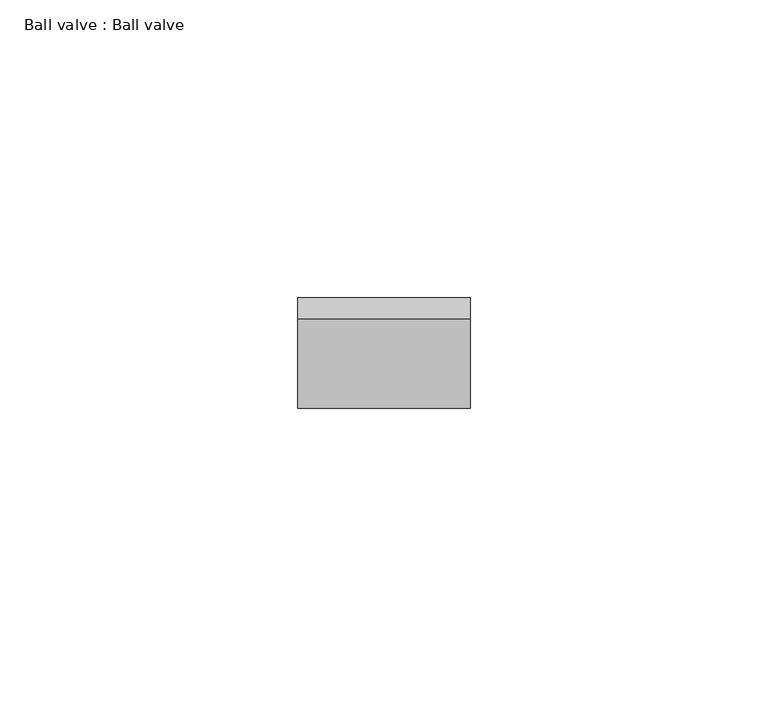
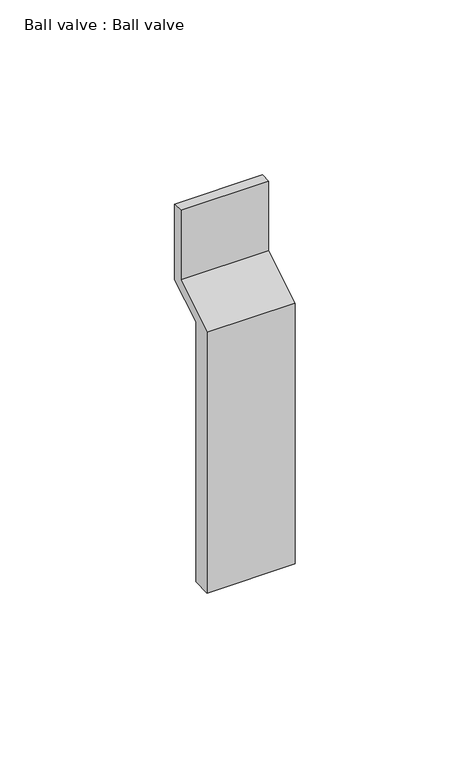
"""IFC4 building model written with IfcOpenShell, lengths in millimetres: proxy geometry, Ball valve : Ball valve."""

from ifc_helpers import new_model, si_unit, frame, origin, place, context, project, spatial, polyline, outline, extrude, source, transform, mapped, element, save


def ball_valve_ball_valve_2ec3f82c(model_context):
    return source(origin(), model_context, "Body", "SweptSolid", [
        extrude(outline(polyline([(3.25, -96.0027321), (-3.25, -96.0027321), (-3.25, -5.0690551), (11.8, 4.1150054), (11.8, 28.5), (15.3, 28.5), (15.3, 2.1506187), (3.25, -5.2027321), (3.25, -96.0027321)])), frame((-14.5, 0.0, 0.0), z_axis=(1.0, 0.0, 0.0), x_axis=(0.0, 1.0, 0.0)), (0.0, 0.0, 1.0), 29.0),
    ])


if __name__ == "__main__":
    model = new_model("IFC4")
    model_context = context("Model", 3, world=origin())
    ifc_project = project(units=[si_unit("LENGTHUNIT", "METRE", prefix="MILLI")], contexts=[model_context])
    site = spatial("IfcSite", under=ifc_project)
    building = spatial("IfcBuilding", under=site)
    placement = place(None, origin())
    ball_valve_ball_valve_shape = ball_valve_ball_valve_2ec3f82c(model_context)
    element("IfcBuildingElementProxy", 1, Name="Ball valve : Ball valve", ObjectType="Ball valve : Ball valve", at=placement, inside=building, context=model_context, shape_type="MappedRepresentation", body=[
        mapped(ball_valve_ball_valve_shape, transform((0.0, 0.0, 0.0), x_axis=(1.0, 0.0, 0.0), y_axis=(0.0, 1.0, 0.0), z_axis=(0.0, 0.0, 1.0))),
    ])
    save(model, "model.ifc")
